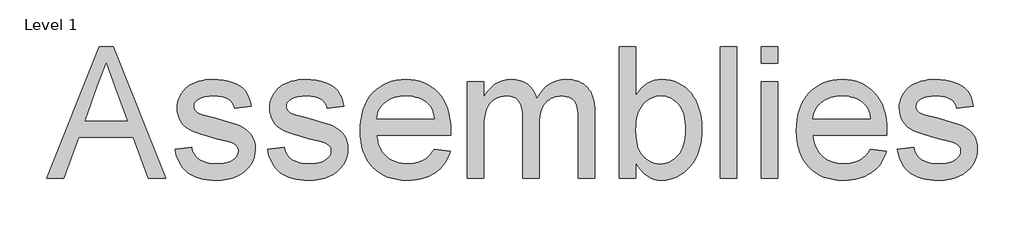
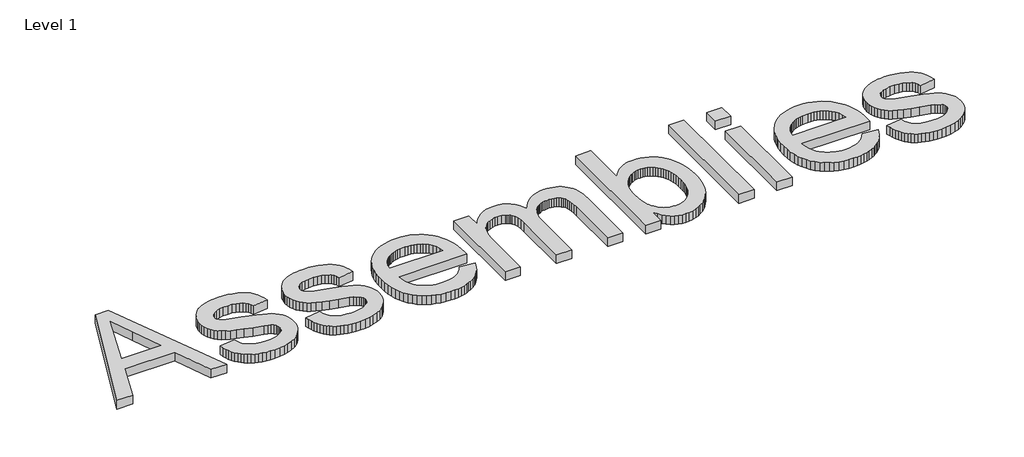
# One storey, part 32 of 32: 1 proxy.
"""IFC4 building model written with IfcOpenShell, lengths in millimetres."""

import ifcopenshell
import ifcopenshell.guid

model = None  # the IFC model being written
_history = None  # IfcOwnerHistory: only IFC2X3 demands one
_inside = {}  # id of a spatial element -> (the spatial element, [elements in it])
_under = {}  # id of a project, library or spatial element -> (it, [spatial elements below it])
_declared = {}  # id of a project -> (the project, [libraries it declares])
_typed = {}  # id of a type object -> (the type object, [elements of that type])
_made_of = {}  # id of a material, layer set ... -> (it, [elements and type objects made of it])


def new_model(schema):
    """Start an empty IFC model of exactly this schema.

    Asked for "IFC4X3", IfcOpenShell would pick the latest addendum, in which some entities
    have other attributes; the version numbers below select the first issue.
    IFC2X3 requires an IfcOwnerHistory on every rooted entity: one is made here for all.
    """
    global model, _history
    if schema == "IFC4X3":
        model = ifcopenshell.file(schema_version=(4, 3, 0, 0))
    else:
        model = ifcopenshell.file(schema=schema)
    _inside.clear()
    _under.clear()
    _declared.clear()
    _typed.clear()
    _made_of.clear()
    _history = None
    if model.schema == "IFC2X3":
        org = make("IfcOrganization", Name="unknown")
        user = make(
            "IfcPersonAndOrganization",
            ThePerson=make("IfcPerson", FamilyName="unknown"),
            TheOrganization=org,
        )
        app = make(
            "IfcApplication",
            ApplicationDeveloper=org,
            Version="unknown",
            ApplicationFullName="unknown",
            ApplicationIdentifier="unknown",
        )
        _history = make(
            "IfcOwnerHistory",
            OwningUser=user,
            OwningApplication=app,
            ChangeAction="ADDED",
            CreationDate=0,
        )
    return model


def make(cls, **values):
    """One entity of the class cls with the attributes given. An attribute that is None is left unset."""
    return model.create_entity(
        cls, **{name: value for name, value in values.items() if value is not None}
    )


def rooted(cls, **values):
    """An entity with a GlobalId (a new one), such as an element, a storey or a relation."""
    return make(cls, GlobalId=ifcopenshell.guid.new(), OwnerHistory=_history, **values)


def si_unit(unit_type, name, prefix=None):
    """IfcSIUnit, for example si_unit("LENGTHUNIT", "METRE", prefix="MILLI")."""
    return make("IfcSIUnit", UnitType=unit_type, Prefix=prefix, Name=name)


def assignment(units):
    """IfcUnitAssignment: the units of a project."""
    return None if units is None else make("IfcUnitAssignment", Units=units)


def point(xyz):
    """IfcCartesianPoint."""
    return None if xyz is None else make("IfcCartesianPoint", Coordinates=xyz)


def direction(xyz):
    """IfcDirection."""
    return None if xyz is None else make("IfcDirection", DirectionRatios=xyz)


def frame(location, z_axis=None, x_axis=None):
    """IfcAxis2Placement3D, a coordinate frame: its origin and axes. An axis left out is left unset."""
    return make(
        "IfcAxis2Placement3D",
        Location=point(location),
        Axis=direction(z_axis),
        RefDirection=direction(x_axis),
    )


def origin():
    """The frame at (0, 0, 0) with its axes left unset."""
    return frame((0.0, 0.0, 0.0))


def origin_with_axes():
    """The frame at (0, 0, 0) with the z axis (0, 0, 1) and the x axis (1, 0, 0) written out."""
    return frame((0.0, 0.0, 0.0), z_axis=(0.0, 0.0, 1.0), x_axis=(1.0, 0.0, 0.0))


def place(relative_to, where):
    """IfcLocalPlacement: puts the frame where relative to a parent placement (None: the world)."""
    return make(
        "IfcLocalPlacement", PlacementRelTo=relative_to, RelativePlacement=where
    )


def context(
    kind, dimensions, precision=None, world=None, true_north=None, identifier=None
):
    """IfcGeometricRepresentationContext, for example the 3D "Model" context."""
    return make(
        "IfcGeometricRepresentationContext",
        ContextIdentifier=identifier,
        ContextType=kind,
        CoordinateSpaceDimension=dimensions,
        Precision=precision,
        WorldCoordinateSystem=world,
        TrueNorth=true_north,
    )


def project(units=None, contexts=None):
    """IfcProject with its units and contexts."""
    return rooted(
        "IfcProject",
        Name="project",
        RepresentationContexts=contexts,
        UnitsInContext=assignment(units),
    )


def spatial(cls, under=None, at=None, **own):
    """A site, building, storey or space (cls), placed at a placement, below another one or the project."""
    s = rooted(cls, ObjectPlacement=at, **own)
    if under is not None:
        _under.setdefault(under.id(), (under, []))[1].append(s)
    return s


def polyline(points):
    """IfcPolyline through the points."""
    return make("IfcPolyline", Points=[point(p) for p in points])


def outline(outer, holes=None, kind="AREA"):
    """IfcArbitraryClosedProfileDef: a profile drawn as a closed curve; with holes, ...WithVoids."""
    if holes is None:
        return make("IfcArbitraryClosedProfileDef", ProfileType=kind, OuterCurve=outer)
    return make(
        "IfcArbitraryProfileDefWithVoids",
        ProfileType=kind,
        OuterCurve=outer,
        InnerCurves=holes,
    )


def extrude(swept, where, along, depth):
    """IfcExtrudedAreaSolid: the profile swept, set in the frame where, extruded along a direction by depth."""
    return make(
        "IfcExtrudedAreaSolid",
        SweptArea=swept,
        Position=where,
        ExtrudedDirection=direction(along),
        Depth=depth,
    )


def shape(context_of_items, identifier, shape_type, items):
    """IfcShapeRepresentation: the items that make up one representation, for example the "Body"."""
    return make(
        "IfcShapeRepresentation",
        ContextOfItems=context_of_items,
        RepresentationIdentifier=identifier,
        RepresentationType=shape_type,
        Items=items,
    )


def made_of(thing, what):
    """Note that an element or type object is made of a material, layer set ...; save() writes the relation."""
    if what is not None:
        _made_of.setdefault(what.id(), (what, []))[1].append(thing)
    return thing


def element(
    cls,
    number,
    at=None,
    inside=None,
    cuts=None,
    type_object=None,
    material=None,
    context=None,
    identifier="Body",
    shape_type=None,
    held_by="IfcProductDefinitionShape",
    body=None,
    shapes=None,
    **own,
):
    """One element of the class cls, such as IfcWall. Its Tag is "e" and its number.

    at: its placement. inside: the storey or other place that contains it. cuts: it is an
    opening in that element (IfcRelVoidsElement). A single representation is given by context,
    identifier, shape_type and body (its items); several are given by shapes. held_by: the class
    of the entity that holds the representations. save() writes the other relations.
    """
    e = rooted(cls, Tag="e%d" % number, ObjectPlacement=at, **own)
    if body is not None:
        shapes = [shape(context, identifier, shape_type, body)]
    if shapes is not None:
        e.Representation = make(held_by, Representations=shapes)
    if inside is not None:
        _inside.setdefault(inside.id(), (inside, []))[1].append(e)
    if cuts is not None:
        rooted(
            "IfcRelVoidsElement", RelatingBuildingElement=cuts, RelatedOpeningElement=e
        )
    if type_object is not None:
        _typed.setdefault(type_object.id(), (type_object, []))[1].append(e)
    return made_of(e, material)


def aggregate(whole, parts):
    """IfcRelAggregates: a whole, such as a stair, and the parts it consists of."""
    return rooted("IfcRelAggregates", RelatingObject=whole, RelatedObjects=parts)


def save(model, path):
    """Write the relations noted so far, then the file.

    IfcRelAggregates (storeys below a building ...), IfcRelContainedInSpatialStructure (elements
    in a storey), IfcRelDefinesByType, IfcRelAssociatesMaterial and IfcRelDeclares: one each for
    every whole, place, type object, material and project.
    """
    for whole, parts in _under.values():
        aggregate(whole, parts)
    for where, things in _inside.values():
        rooted(
            "IfcRelContainedInSpatialStructure",
            RelatedElements=things,
            RelatingStructure=where,
        )
    for kind, things in _typed.values():
        rooted("IfcRelDefinesByType", RelatedObjects=things, RelatingType=kind)
    for what, things in _made_of.values():
        rooted("IfcRelAssociatesMaterial", RelatedObjects=things, RelatingMaterial=what)
    for by, libraries in _declared.values():
        rooted("IfcRelDeclares", RelatingContext=by, RelatedDefinitions=libraries)
    model.write(path)


model = new_model("IFC4")

# Units and contexts
model_context = context("Model", 3, world=origin())
ifc_project = project(units=[si_unit("LENGTHUNIT", "METRE", prefix="MILLI")], contexts=[model_context])

# Site, building, storey
site = spatial("IfcSite", under=ifc_project)
building = spatial("IfcBuilding", under=site)
storey = spatial("IfcBuildingStorey", under=building, Name="Level 1", Elevation=0.0)

# Proxy
placement = place(None, origin())
element("IfcBuildingElementProxy", 1, Name="2000mm Arial", ObjectType="2000mm Arial", at=placement, inside=storey, context=model_context, shape_type="SweptSolid", body=[
    extrude(outline(polyline([(-24973.2344627, 35444.4687272), (-24171.2517132, 37453.5949302), (-23957.3896467, 37453.5949302), (-23155.4068972, 35444.4687272), (-23420.7724431, 35444.4687272), (-23650.8213174, 36072.3206656), (-24478.3105519, 36072.3206656), (-24707.8689169, 35444.4687272), (-24973.2344627, 35444.4687272)]), holes=[polyline([(-24386.0947984, 36323.461441), (-23742.5465615, 36323.461441), (-23923.5445032, 36817.4043332), (-24064.32068, 37202.4541548), (-24189.4005583, 36860.569154), (-24386.0947984, 36323.461441)])]), origin_with_axes(), (0.0, 0.0, 1.0), 150.0),
    extrude(outline(polyline([(-23012.6686831, 35883.9650841), (-22761.5279077, 35915.357681), (-22746.3527754, 35858.0907171), (-22721.9192796, 35807.9361384), (-22688.2274202, 35764.893945), (-22645.2771972, 35728.9641368), (-22592.9459834, 35700.6372232), (-22531.1111514, 35680.4037134), (-22459.7727012, 35668.2636076), (-22378.9306327, 35664.2169057), (-22298.1805348, 35667.9263824), (-22228.589524, 35679.0548128), (-22170.1576005, 35697.6021967), (-22122.8847641, 35723.5685342), (-22086.4031329, 35754.5319355), (-22060.3448249, 35788.0705107), (-22044.7098401, 35824.1842599), (-22039.4981785, 35862.8731831), (-22044.7404969, 35896.7796403), (-22060.4674522, 35926.8846502), (-22086.6790444, 35953.1882129), (-22123.3752734, 35975.6903282), (-22161.6043441, 35990.6508627), (-22217.4304369, 36007.5734345), (-22381.8736887, 36047.30469), (-22506.4937146, 36081.6556713), (-22611.0641717, 36113.5847628), (-22695.5850601, 36143.0919645), (-22760.0563797, 36170.1772764), (-22811.2073055, 36198.5501752), (-22855.7670121, 36231.9201379), (-22893.7354997, 36270.2871643), (-22925.1127682, 36313.6512545), (-22949.6842198, 36360.709493), (-22967.2352567, 36410.1589645), (-22977.7658788, 36461.999669), (-22981.2760862, 36516.2316065), (-22978.4556575, 36565.8190338), (-22969.9943717, 36613.5363942), (-22955.8922285, 36659.3836879), (-22936.1492281, 36703.3609147), (-22911.5317913, 36744.5790266), (-22882.8063388, 36782.1489753), (-22849.9728707, 36816.070761), (-22813.031387, 36846.3443835), (-22780.9796682, 36867.3596425), (-22743.685631, 36886.7500893), (-22701.1492753, 36904.515724), (-22653.3706011, 36920.6565465), (-22602.0663912, 36934.0689109), (-22548.9534282, 36943.6491712), (-22494.031712, 36949.3973274), (-22437.3012426, 36951.3133795), (-22352.9029816, 36948.2323677), (-22273.8390094, 36938.9893326), (-22200.1093262, 36923.5842741), (-22131.713932, 36902.0171921), (-22070.2776388, 36875.1924633), (-22017.4252588, 36844.0144642), (-21973.1567921, 36808.4831948), (-21937.4722385, 36768.5986552), (-21908.5321882, 36722.9659594), (-21884.4972312, 36670.1902215), (-21865.3673675, 36610.2714415), (-21851.142597, 36543.2096195), (-22102.2833724, 36511.8170225), (-22114.2548656, 36553.7708984), (-22133.9825376, 36590.8503378), (-22161.4663883, 36623.0553408), (-22196.7064178, 36650.3859074), (-22239.8559101, 36672.1675872), (-22291.0681496, 36687.7259299), (-22350.343136, 36697.0609355), (-22417.6808696, 36700.1726041), (-22495.7944799, 36697.1988913), (-22561.8906117, 36688.2777529), (-22615.969265, 36673.4091889), (-22658.0304397, 36652.5931994), (-22689.5763208, 36627.8224784), (-22712.109093, 36601.08972), (-22725.6287564, 36572.3949244), (-22730.1353108, 36541.7380915), (-22728.265244, 36521.9031206), (-22722.6550436, 36503.110482), (-22713.3047095, 36485.3601757), (-22700.2142419, 36468.6522018), (-22683.1383859, 36452.4960508), (-22661.831887, 36437.8727415), (-22606.5269604, 36413.2246478), (-22390.2123473, 36359.7591312), (-22168.3181905, 36294.1535087), (-22085.56007, 36266.2251339), (-22021.5945881, 36241.5463834), (-21969.9684814, 36215.8866143), (-21924.2284867, 36185.0151835), (-21884.3746039, 36148.9320911), (-21850.406833, 36107.6373372), (-21823.2602074, 36061.069608), (-21803.8697606, 36009.1675898), (-21792.2354925, 35951.9312827), (-21788.3574031, 35889.3606867), (-21792.9099428, 35826.5141792), (-21806.5675619, 35765.5070817), (-21829.3302604, 35706.3393941), (-21861.1980382, 35649.0111165), (-21901.6497292, 35595.806183), (-21950.1641674, 35549.0085275), (-22006.7413525, 35508.6181501), (-22071.3812848, 35474.6350508), (-22142.3211962, 35447.7030231), (-22217.7983188, 35428.4658604), (-22297.8126528, 35416.9235628), (-22382.364198, 35413.0761303), (-22452.0855003, 35414.9308687), (-22517.5301744, 35420.4950839), (-22578.6982203, 35429.7687758), (-22635.589638, 35442.7519446), (-22688.2044276, 35459.4445901), (-22736.5425889, 35479.8467124), (-22780.604122, 35503.9583115), (-22820.3890269, 35531.7793874), (-22856.3341636, 35563.2486264), (-22888.8763917, 35598.3047149), (-22918.0157114, 35636.9476528), (-22943.7521227, 35679.1774401), (-22966.0856255, 35724.9940769), (-22985.0162198, 35774.3975632), (-23000.5439057, 35827.3878989), (-23012.6686831, 35883.9650841)])), origin_with_axes(), (0.0, 0.0, 1.0), 150.0),
    extrude(outline(polyline([(-21600.0018216, 35883.9650841), (-21348.8610462, 35915.357681), (-21333.6859139, 35858.0907171), (-21309.2524181, 35807.9361384), (-21275.5605587, 35764.893945), (-21232.6103358, 35728.9641368), (-21180.279122, 35700.6372232), (-21118.4442899, 35680.4037134), (-21047.1058397, 35668.2636076), (-20966.2637713, 35664.2169057), (-20885.5136733, 35667.9263824), (-20815.9226626, 35679.0548128), (-20757.490739, 35697.6021967), (-20710.2179026, 35723.5685342), (-20673.7362714, 35754.5319355), (-20647.6779634, 35788.0705107), (-20632.0429786, 35824.1842599), (-20626.831317, 35862.8731831), (-20632.0736355, 35896.7796403), (-20647.8005908, 35926.8846502), (-20674.0121829, 35953.1882129), (-20710.7084119, 35975.6903282), (-20748.9374826, 35990.6508627), (-20804.7635754, 36007.5734345), (-20969.2068272, 36047.30469), (-21093.8268531, 36081.6556713), (-21198.3973102, 36113.5847628), (-21282.9181986, 36143.0919645), (-21347.3895183, 36170.1772764), (-21398.540444, 36198.5501752), (-21443.1001507, 36231.9201379), (-21481.0686383, 36270.2871643), (-21512.4459068, 36313.6512545), (-21537.0173584, 36360.709493), (-21554.5683952, 36410.1589645), (-21565.0990173, 36461.999669), (-21568.6092247, 36516.2316065), (-21565.7887961, 36565.8190338), (-21557.3275102, 36613.5363942), (-21543.225367, 36659.3836879), (-21523.4823666, 36703.3609147), (-21498.8649298, 36744.5790266), (-21470.1394773, 36782.1489753), (-21437.3060092, 36816.070761), (-21400.3645256, 36846.3443835), (-21368.3128067, 36867.3596425), (-21331.0187695, 36886.7500893), (-21288.4824138, 36904.515724), (-21240.7037397, 36920.6565465), (-21189.3995297, 36934.0689109), (-21136.2865667, 36943.6491712), (-21081.3648505, 36949.3973274), (-21024.6343812, 36951.3133795), (-20940.2361201, 36948.2323677), (-20861.172148, 36938.9893326), (-20787.4424648, 36923.5842741), (-20719.0470705, 36902.0171921), (-20657.6107773, 36875.1924633), (-20604.7583973, 36844.0144642), (-20560.4899306, 36808.4831948), (-20524.805377, 36768.5986552), (-20495.8653268, 36722.9659594), (-20471.8303697, 36670.1902215), (-20452.700506, 36610.2714415), (-20438.4757355, 36543.2096195), (-20689.6165109, 36511.8170225), (-20701.5880041, 36553.7708984), (-20721.3156761, 36590.8503378), (-20748.7995269, 36623.0553408), (-20784.0395563, 36650.3859074), (-20827.1890487, 36672.1675872), (-20878.4012881, 36687.7259299), (-20937.6762745, 36697.0609355), (-21005.0140081, 36700.1726041), (-21083.1276184, 36697.1988913), (-21149.2237502, 36688.2777529), (-21203.3024035, 36673.4091889), (-21245.3635783, 36652.5931994), (-21276.9094593, 36627.8224784), (-21299.4422316, 36601.08972), (-21312.9618949, 36572.3949244), (-21317.4684493, 36541.7380915), (-21315.5983825, 36521.9031206), (-21309.9881821, 36503.110482), (-21300.637848, 36485.3601757), (-21287.5473804, 36468.6522018), (-21270.4715244, 36452.4960508), (-21249.1650255, 36437.8727415), (-21193.8600989, 36413.2246478), (-20977.5454858, 36359.7591312), (-20755.651329, 36294.1535087), (-20672.8932085, 36266.2251339), (-20608.9277266, 36241.5463834), (-20557.30162, 36215.8866143), (-20511.5616252, 36185.0151835), (-20471.7077424, 36148.9320911), (-20437.7399715, 36107.6373372), (-20410.593346, 36061.069608), (-20391.2028991, 36009.1675898), (-20379.568631, 35951.9312827), (-20375.6905417, 35889.3606867), (-20380.2430814, 35826.5141792), (-20393.9007004, 35765.5070817), (-20416.6633989, 35706.3393941), (-20448.5311767, 35649.0111165), (-20488.9828678, 35595.806183), (-20537.4973059, 35549.0085275), (-20594.0744911, 35508.6181501), (-20658.7144233, 35474.6350508), (-20729.6543347, 35447.7030231), (-20805.1314574, 35428.4658604), (-20885.1457913, 35416.9235628), (-20969.6973365, 35413.0761303), (-21039.4186388, 35414.9308687), (-21104.8633129, 35420.4950839), (-21166.0313588, 35429.7687758), (-21222.9227766, 35442.7519446), (-21275.5375661, 35459.4445901), (-21323.8757274, 35479.8467124), (-21367.9372605, 35503.9583115), (-21407.7221655, 35531.7793874), (-21443.6673021, 35563.2486264), (-21476.2095302, 35598.3047149), (-21505.3488499, 35636.9476528), (-21531.0852612, 35679.1774401), (-21553.418764, 35724.9940769), (-21572.3493583, 35774.3975632), (-21587.8770442, 35827.3878989), (-21600.0018216, 35883.9650841)])), origin_with_axes(), (0.0, 0.0, 1.0), 150.0),
    extrude(outline(polyline([(-19060.1445269, 35883.9650841), (-18813.9088448, 35852.5724872), (-18831.1341528, 35801.7971076), (-18851.6627346, 35753.9494556), (-18875.4945901, 35709.0295312), (-18902.6297193, 35667.0373343), (-18933.0681223, 35627.9728649), (-18966.8097991, 35591.8361231), (-19003.8547495, 35558.6271088), (-19044.2029738, 35528.3458221), (-19087.6552024, 35501.3294881), (-19134.0121659, 35477.9153319), (-19183.2738643, 35458.1033537), (-19235.4402976, 35441.8935532), (-19290.5114659, 35429.2859307), (-19348.487369, 35420.280486), (-19409.3680071, 35414.8772192), (-19473.1533802, 35413.0761303), (-19553.1907067, 35416.1839667), (-19628.982062, 35425.507476), (-19700.5274458, 35441.0466582), (-19767.8268583, 35462.8015133), (-19830.8802994, 35490.7720412), (-19889.6877692, 35524.9582421), (-19944.2492676, 35565.3601158), (-19994.5647947, 35611.9776623), (-20039.7453022, 35664.2054093), (-20078.9017421, 35721.4378843), (-20112.0341142, 35783.6750873), (-20139.1424188, 35850.9170182), (-20160.2266556, 35923.1636771), (-20175.2868248, 36000.415064), (-20184.3229263, 36082.6711789), (-20187.3349601, 36169.9320217), (-20184.2922695, 36260.1627452), (-20175.1641975, 36345.1971356), (-20159.9507441, 36425.0351927), (-20138.6519094, 36499.6769167), (-20111.2676934, 36569.1223075), (-20077.7980961, 36633.3713651), (-20038.2431174, 36692.4240896), (-19992.6027574, 36746.2804808), (-19942.1109535, 36794.3350664), (-19888.0016434, 36835.982374), (-19830.274827, 36871.2224034), (-19768.9305043, 36900.0551548), (-19703.9686753, 36922.4806281), (-19635.38934, 36938.4988233), (-19563.1924985, 36948.1097404), (-19487.3781506, 36951.3133795), (-19414.0431742, 36948.1174046), (-19344.1340988, 36938.5294801), (-19277.6509245, 36922.549606), (-19214.5936512, 36900.1777821), (-19154.9622791, 36871.4140086), (-19098.756808, 36836.2582855), (-19045.977238, 36794.7106126), (-18996.6235691, 36746.7709901), (-18951.9603956, 36693.0372262), (-18913.2523119, 36634.1071291), (-18880.499318, 36569.9806988), (-18853.701414, 36500.6579354), (-18832.8585997, 36426.1388387), (-18817.9708752, 36346.4234089), (-18809.0382405, 36261.5116459), (-18806.0606956, 36171.4035497), (-18807.5322236, 36103.7132626), (-19936.1941848, 36103.7132626), (-19930.718108, 36052.0488349), (-19921.6475175, 36003.4960757), (-19908.9824134, 35958.0549851), (-19892.7227957, 35915.725563), (-19872.8686642, 35876.5078095), (-19849.4200191, 35840.4017245), (-19822.3768604, 35807.4073081), (-19791.739188, 35777.5245602), (-19758.3040796, 35750.9680786), (-19722.8686128, 35727.9524613), (-19685.4327877, 35708.4777082), (-19645.9966042, 35692.5438193), (-19604.5600624, 35680.1507946), (-19561.1231623, 35671.2986341), (-19515.6859038, 35665.9873378), (-19468.2482869, 35664.2169057), (-19398.7799035, 35667.4971868), (-19334.5844953, 35677.3380302), (-19275.6620624, 35693.7394358), (-19222.0126048, 35716.7014036), (-19173.6361224, 35746.8370704), (-19130.5326153, 35784.7595727), (-19092.7020835, 35830.4689106), (-19060.1445269, 35883.9650841)]), holes=[polyline([(-19936.1941848, 36354.8540379), (-19057.201471, 36354.8540379), (-19070.1079976, 36425.9165767), (-19091.1692418, 36487.5368109), (-19120.3852036, 36539.7147405), (-19157.755883, 36582.4503656), (-19190.8192773, 36610.0415153), (-19226.2432477, 36633.9538449), (-19264.0277943, 36654.1873547), (-19304.172917, 36670.7420445), (-19346.6786159, 36683.6179143), (-19391.5448909, 36692.8149642), (-19438.771742, 36698.3331941), (-19488.3591693, 36700.1726041), (-19576.6661766, 36694.3018206), (-19618.0720615, 36686.9633412), (-19657.6462007, 36676.6894701), (-19695.3885942, 36663.4802072), (-19731.2992419, 36647.3355525), (-19765.3781438, 36628.2555061), (-19797.6252999, 36606.240068), (-19827.2053116, 36581.764419), (-19853.2827801, 36555.3037401), (-19875.8577054, 36526.8580312), (-19894.9300876, 36496.4272924), (-19910.4999267, 36464.0115237), (-19922.5672225, 36429.610725), (-19931.1319752, 36393.2248965), (-19936.1941848, 36354.8540379)])]), origin_with_axes(), (0.0, 0.0, 1.0), 150.0),
    extrude(outline(polyline([(-18554.9199202, 35444.4687272), (-18554.9199202, 36919.9207825), (-18303.7791448, 36919.9207825), (-18303.7791448, 36677.1186657), (-18268.707728, 36735.9031429), (-18228.2407085, 36788.6482239), (-18182.3780864, 36835.3539089), (-18131.1198618, 36876.0201978), (-18075.293769, 36908.9609648), (-18015.7275426, 36932.490084), (-17952.4211826, 36946.6075556), (-17885.374689, 36951.3133795), (-17812.0742014, 36946.5155851), (-17745.7021581, 36932.122202), (-17686.2585591, 36908.1332303), (-17633.7434043, 36874.5486698), (-17588.3099779, 36832.3188824), (-17550.111564, 36782.39423), (-17519.1481628, 36724.7747125), (-17495.4197741, 36659.4603299), (-17451.2586063, 36727.8633884), (-17403.878471, 36787.1460391), (-17353.2793682, 36837.308282), (-17299.461298, 36878.3501171), (-17242.4242603, 36910.2715444), (-17182.1682552, 36933.0725639), (-17118.6932826, 36946.7531756), (-17051.9993426, 36951.3133795), (-17000.193127, 36949.4164879), (-16951.460259, 36943.7258133), (-16905.8007384, 36934.2413556), (-16863.2145654, 36920.9631148), (-16823.7017398, 36903.891091), (-16787.2622618, 36883.0252841), (-16753.8961313, 36858.3656941), (-16723.6033482, 36829.912321), (-16696.6444958, 36797.5118807), (-16673.280157, 36761.011089), (-16653.5103318, 36720.4099459), (-16637.3350203, 36675.7084514), (-16624.7542225, 36626.9066055), (-16615.7679384, 36574.0044081), (-16610.3761679, 36517.0018594), (-16608.5789111, 36455.8989593), (-16608.5789111, 35444.4687272), (-16859.7196864, 35444.4687272), (-16859.7196864, 36347.9869074), (-16861.175886, 36415.7231797), (-16865.5444847, 36473.2507267), (-16872.8254825, 36520.5695483), (-16883.0188795, 36557.6796446), (-16897.0290521, 36588.1372081), (-16915.760377, 36615.4984315), (-16939.2128542, 36639.7633148), (-16967.3864837, 36660.9318579), (-16999.2542615, 36678.0996844), (-17033.7891838, 36690.3624175), (-17070.9912506, 36697.7200574), (-17110.8604618, 36700.1726041), (-17147.230962, 36698.6014414), (-17182.0302995, 36693.8879533), (-17215.2584742, 36686.0321399), (-17246.9154864, 36675.0340011), (-17277.0013358, 36660.8935369), (-17305.5160225, 36643.6107473), (-17332.4595465, 36623.1856324), (-17357.8319079, 36599.6181921), (-17380.8820142, 36572.5865296), (-17400.8587729, 36541.7687483), (-17417.7621842, 36507.1648481), (-17431.5922479, 36468.7748291), (-17442.3489642, 36426.5986912), (-17450.0323329, 36380.6364344), (-17454.6423542, 36330.8880588), (-17456.1790279, 36277.3535643), (-17456.1790279, 35444.4687272), (-17707.3198033, 35444.4687272), (-17707.3198033, 36375.945939), (-17710.952638, 36452.0361983), (-17721.8511421, 36517.9483891), (-17740.0153156, 36573.6825114), (-17765.4451586, 36619.2385651), (-17781.1376249, 36638.2074805), (-17799.1523464, 36654.6472072), (-17819.4893229, 36668.5577451), (-17842.1485545, 36679.9390943), (-17894.4337831, 36695.1142266), (-17956.0080321, 36700.1726041), (-18005.3348762, 36696.8003525), (-18052.7609968, 36686.6835976), (-18098.2863937, 36669.8223395), (-18141.911067, 36646.2165781), (-18181.6423224, 36616.1115682), (-18215.487466, 36579.7525643), (-18243.4464976, 36537.1395665), (-18265.5194173, 36488.2725749), (-18282.2580481, 36430.5457584), (-18294.214213, 36361.3532865), (-18301.3879119, 36280.6951591), (-18303.7791448, 36188.5713761), (-18303.7791448, 35444.4687272), (-18554.9199202, 35444.4687272)])), origin_with_axes(), (0.0, 0.0, 1.0), 150.0),
    extrude(outline(polyline([(-15980.7269726, 35444.4687272), (-16231.867748, 35444.4687272), (-16231.867748, 37453.5949302), (-15980.7269726, 37453.5949302), (-15980.7269726, 36708.5112626), (-15940.7657909, 36765.4180088), (-15898.1374647, 36814.7371887), (-15852.841994, 36856.4688026), (-15804.8793789, 36890.6128502), (-15754.2496193, 36917.1693318), (-15700.9527153, 36936.1382472), (-15644.9886668, 36947.5195964), (-15586.3574738, 36951.3133795), (-15520.7825082, 36947.8951426), (-15456.9856388, 36937.640432), (-15394.9668658, 36920.5492476), (-15334.7261891, 36896.6215895), (-15278.0110482, 36866.5012511), (-15226.5688825, 36830.832026), (-15180.3996921, 36789.6139142), (-15139.503477, 36742.8469155), (-15103.3130857, 36690.745628), (-15071.2613669, 36633.5246493), (-15043.3483205, 36571.1839795), (-15019.5739466, 36503.7236187), (-15000.5820386, 36432.4924673), (-14987.01639, 36358.8394262), (-14978.8770008, 36282.7644953), (-14976.1638711, 36204.2676746), (-14978.9728034, 36112.4044747), (-14987.3996004, 36025.9062206), (-15001.444262, 35944.7729122), (-15021.1067882, 35869.0045496), (-15046.3871791, 35798.6011328), (-15077.2854345, 35733.5626618), (-15113.8015547, 35673.8891364), (-15155.9355394, 35619.5805569), (-15202.0089272, 35571.1810819), (-15250.3432564, 35529.2348703), (-15300.9385271, 35493.7419219), (-15353.7947392, 35464.7022369), (-15408.9118927, 35442.1158153), (-15466.2899876, 35425.9826569), (-15525.929024, 35416.302762), (-15587.8290018, 35413.0761303), (-15648.6904793, 35417.2377954), (-15706.1950337, 35429.7227906), (-15760.3426649, 35450.5311159), (-15811.1333728, 35479.6627714), (-15858.5671576, 35517.117757), (-15902.6440191, 35562.8960728), (-15943.3639575, 35616.9977187), (-15980.7269726, 35679.4226948), (-15980.7269726, 35444.4687272)]), holes=[polyline([(-15980.7269726, 36192.4954507), (-15976.435016, 36079.3104236), (-15963.5591462, 35983.0479681), (-15953.9022438, 35941.2627049), (-15942.0993631, 35903.7080845), (-15928.1505041, 35870.3841071), (-15912.0556669, 35841.2907727), (-15882.8626977, 35799.7890851), (-15851.2018535, 35763.8209559), (-15817.0731342, 35733.386385), (-15780.4765399, 35708.4853724), (-15741.4120705, 35689.1179182), (-15699.8797261, 35675.2840223), (-15655.8795067, 35666.9836848), (-15609.4114122, 35664.2169057), (-15571.1976699, 35666.255585), (-15534.3021715, 35672.3716232), (-15498.7249169, 35682.5650202), (-15464.4659061, 35696.8357759), (-15431.5251391, 35715.1838904), (-15399.9026159, 35737.6093637), (-15369.5983365, 35764.1121958), (-15340.612301, 35794.6923866), (-15314.0558195, 35829.3116152), (-15291.0402022, 35867.9315605), (-15271.565449, 35910.5522225), (-15255.6315601, 35957.1736012), (-15243.2385354, 36007.7956965), (-15234.3863749, 36062.4185086), (-15229.0750786, 36121.0420374), (-15227.3046465, 36183.6662828), (-15229.0022686, 36247.6011079), (-15234.095135, 36307.2133196), (-15242.5832456, 36362.5029178), (-15254.4666005, 36413.4699025), (-15269.7451996, 36460.1142738), (-15288.4190429, 36502.4360317), (-15310.4881306, 36540.4351761), (-15335.9524624, 36574.1117071), (-15363.8233556, 36603.6572298), (-15393.1121274, 36629.2633495), (-15423.8187777, 36650.9300662), (-15455.9433065, 36668.6573798), (-15489.4857138, 36682.4452904), (-15524.4459997, 36692.293798), (-15560.8241641, 36698.2029026), (-15598.620207, 36700.1726041), (-15636.8339492, 36698.1339247), (-15673.7294476, 36692.0178865), (-15709.3067023, 36681.8244896), (-15743.5657131, 36667.5537338), (-15776.50648, 36649.2056193), (-15808.1290032, 36626.780146), (-15838.4332826, 36600.277314), (-15867.4193181, 36569.6971231), (-15893.9757996, 36535.2618355), (-15916.991417, 36497.1937132), (-15936.4661701, 36455.4927562), (-15952.400059, 36410.1589645), (-15964.7930837, 36361.1923381), (-15973.6452442, 36308.592877), (-15978.9565405, 36252.3605812), (-15980.7269726, 36192.4954507)])]), origin_with_axes(), (0.0, 0.0, 1.0), 150.0),
    extrude(outline(polyline([(-14693.6304988, 35444.4687272), (-14693.6304988, 37453.5949302), (-14442.4897235, 37453.5949302), (-14442.4897235, 35444.4687272), (-14693.6304988, 35444.4687272)])), origin_with_axes(), (0.0, 0.0, 1.0), 150.0),
    extrude(outline(polyline([(-14065.7785604, 37202.4541548), (-14065.7785604, 37453.5949302), (-13814.637785, 37453.5949302), (-13814.637785, 37202.4541548), (-14065.7785604, 37202.4541548)])), origin_with_axes(), (0.0, 0.0, 1.0), 150.0),
    extrude(outline(polyline([(-14065.7785604, 35444.4687272), (-14065.7785604, 36919.9207825), (-13814.637785, 36919.9207825), (-13814.637785, 35444.4687272), (-14065.7785604, 35444.4687272)])), origin_with_axes(), (0.0, 0.0, 1.0), 150.0),
    extrude(outline(polyline([(-12404.9139795, 35883.9650841), (-12158.6782974, 35852.5724872), (-12175.9036054, 35801.7971076), (-12196.4321872, 35753.9494556), (-12220.2640427, 35709.0295312), (-12247.3991719, 35667.0373343), (-12277.8375749, 35627.9728649), (-12311.5792516, 35591.8361231), (-12348.6242021, 35558.6271088), (-12388.9724264, 35528.3458221), (-12432.424655, 35501.3294881), (-12478.7816184, 35477.9153319), (-12528.0433169, 35458.1033537), (-12580.2097502, 35441.8935532), (-12635.2809185, 35429.2859307), (-12693.2568216, 35420.280486), (-12754.1374597, 35414.8772192), (-12817.9228328, 35413.0761303), (-12897.9601593, 35416.1839667), (-12973.7515145, 35425.507476), (-13045.2968984, 35441.0466582), (-13112.5963109, 35462.8015133), (-13175.649752, 35490.7720412), (-13234.4572218, 35524.9582421), (-13289.0187202, 35565.3601158), (-13339.3342473, 35611.9776623), (-13384.5147548, 35664.2054093), (-13423.6711946, 35721.4378843), (-13456.8035668, 35783.6750873), (-13483.9118714, 35850.9170182), (-13504.9961082, 35923.1636771), (-13520.0562774, 36000.415064), (-13529.0923789, 36082.6711789), (-13532.1044127, 36169.9320217), (-13529.0617221, 36260.1627452), (-13519.93365, 36345.1971356), (-13504.7201967, 36425.0351927), (-13483.421362, 36499.6769167), (-13456.037146, 36569.1223075), (-13422.5675487, 36633.3713651), (-13383.01257, 36692.4240896), (-13337.3722099, 36746.2804808), (-13286.8804061, 36794.3350664), (-13232.771096, 36835.982374), (-13175.0442796, 36871.2224034), (-13113.6999569, 36900.0551548), (-13048.7381279, 36922.4806281), (-12980.1587926, 36938.4988233), (-12907.9619511, 36948.1097404), (-12832.1476032, 36951.3133795), (-12758.8126268, 36948.1174046), (-12688.9035514, 36938.5294801), (-12622.420377, 36922.549606), (-12559.3631038, 36900.1777821), (-12499.7317317, 36871.4140086), (-12443.5262606, 36836.2582855), (-12390.7466906, 36794.7106126), (-12341.3930217, 36746.7709901), (-12296.7298482, 36693.0372262), (-12258.0217645, 36634.1071291), (-12225.2687706, 36569.9806988), (-12198.4708665, 36500.6579354), (-12177.6280523, 36426.1388387), (-12162.7403278, 36346.4234089), (-12153.8076931, 36261.5116459), (-12150.8301482, 36171.4035497), (-12152.3016761, 36103.7132626), (-13280.9636373, 36103.7132626), (-13275.4875606, 36052.0488349), (-13266.4169701, 36003.4960757), (-13253.751866, 35958.0549851), (-13237.4922483, 35915.725563), (-13217.6381168, 35876.5078095), (-13194.1894717, 35840.4017245), (-13167.146313, 35807.4073081), (-13136.5086406, 35777.5245602), (-13103.0735322, 35750.9680786), (-13067.6380654, 35727.9524613), (-13030.2022403, 35708.4777082), (-12990.7660568, 35692.5438193), (-12949.329515, 35680.1507946), (-12905.8926149, 35671.2986341), (-12860.4553563, 35665.9873378), (-12813.0177395, 35664.2169057), (-12743.5493561, 35667.4971868), (-12679.3539479, 35677.3380302), (-12620.431515, 35693.7394358), (-12566.7820574, 35716.7014036), (-12518.405575, 35746.8370704), (-12475.3020679, 35784.7595727), (-12437.4715361, 35830.4689106), (-12404.9139795, 35883.9650841)]), holes=[polyline([(-13280.9636373, 36354.8540379), (-12401.9709235, 36354.8540379), (-12414.8774502, 36425.9165767), (-12435.9386944, 36487.5368109), (-12465.1546562, 36539.7147405), (-12502.5253356, 36582.4503656), (-12535.5887299, 36610.0415153), (-12571.0127003, 36633.9538449), (-12608.7972469, 36654.1873547), (-12648.9423696, 36670.7420445), (-12691.4480685, 36683.6179143), (-12736.3143435, 36692.8149642), (-12783.5411946, 36698.3331941), (-12833.1286219, 36700.1726041), (-12921.4356291, 36694.3018206), (-12962.8415141, 36686.9633412), (-13002.4156533, 36676.6894701), (-13040.1580468, 36663.4802072), (-13076.0686945, 36647.3355525), (-13110.1475964, 36628.2555061), (-13142.3947525, 36606.240068), (-13171.9747642, 36581.764419), (-13198.0522327, 36555.3037401), (-13220.627158, 36526.8580312), (-13239.6995402, 36496.4272924), (-13255.2693792, 36464.0115237), (-13267.3366751, 36429.610725), (-13275.9014278, 36393.2248965), (-13280.9636373, 36354.8540379)])]), origin_with_axes(), (0.0, 0.0, 1.0), 150.0),
    extrude(outline(polyline([(-11993.8671636, 35883.9650841), (-11742.7263882, 35915.357681), (-11727.5512559, 35858.0907171), (-11703.11776, 35807.9361384), (-11669.4259006, 35764.893945), (-11626.4756777, 35728.9641368), (-11574.1444639, 35700.6372232), (-11512.3096319, 35680.4037134), (-11440.9711816, 35668.2636076), (-11360.1291132, 35664.2169057), (-11279.3790153, 35667.9263824), (-11209.7880045, 35679.0548128), (-11151.3560809, 35697.6021967), (-11104.0832446, 35723.5685342), (-11067.6016134, 35754.5319355), (-11041.5433054, 35788.0705107), (-11025.9083206, 35824.1842599), (-11020.696659, 35862.8731831), (-11025.9389774, 35896.7796403), (-11041.6659327, 35926.8846502), (-11067.8775249, 35953.1882129), (-11104.5737539, 35975.6903282), (-11142.8028245, 35990.6508627), (-11198.6289173, 36007.5734345), (-11363.0721692, 36047.30469), (-11487.692195, 36081.6556713), (-11592.2626522, 36113.5847628), (-11676.7835405, 36143.0919645), (-11741.2548602, 36170.1772764), (-11792.4057859, 36198.5501752), (-11836.9654926, 36231.9201379), (-11874.9339802, 36270.2871643), (-11906.3112487, 36313.6512545), (-11930.8827003, 36360.709493), (-11948.4337372, 36410.1589645), (-11958.9643593, 36461.999669), (-11962.4745666, 36516.2316065), (-11959.654138, 36565.8190338), (-11951.1928521, 36613.5363942), (-11937.090709, 36659.3836879), (-11917.3477086, 36703.3609147), (-11892.7302717, 36744.5790266), (-11864.0048193, 36782.1489753), (-11831.1713512, 36816.070761), (-11794.2298675, 36846.3443835), (-11762.1781487, 36867.3596425), (-11724.8841114, 36886.7500893), (-11682.3477557, 36904.515724), (-11634.5690816, 36920.6565465), (-11583.2648717, 36934.0689109), (-11530.1519086, 36943.6491712), (-11475.2301924, 36949.3973274), (-11418.4997231, 36951.3133795), (-11334.101462, 36948.2323677), (-11255.0374899, 36938.9893326), (-11181.3078067, 36923.5842741), (-11112.9124124, 36902.0171921), (-11051.4761192, 36875.1924633), (-10998.6237393, 36844.0144642), (-10954.3552725, 36808.4831948), (-10918.670719, 36768.5986552), (-10889.7306687, 36722.9659594), (-10865.6957117, 36670.1902215), (-10846.5658479, 36610.2714415), (-10832.3410775, 36543.2096195), (-11083.4818528, 36511.8170225), (-11095.4533461, 36553.7708984), (-11115.1810181, 36590.8503378), (-11142.6648688, 36623.0553408), (-11177.9048983, 36650.3859074), (-11221.0543906, 36672.1675872), (-11272.26663, 36687.7259299), (-11331.5416165, 36697.0609355), (-11398.87935, 36700.1726041), (-11476.9929603, 36697.1988913), (-11543.0890921, 36688.2777529), (-11597.1677454, 36673.4091889), (-11639.2289202, 36652.5931994), (-11670.7748013, 36627.8224784), (-11693.3075735, 36601.08972), (-11706.8272368, 36572.3949244), (-11711.3337913, 36541.7380915), (-11709.4637245, 36521.9031206), (-11703.853524, 36503.110482), (-11694.50319, 36485.3601757), (-11681.4127223, 36468.6522018), (-11664.3368664, 36452.4960508), (-11643.0303675, 36437.8727415), (-11587.7254409, 36413.2246478), (-11371.4108277, 36359.7591312), (-11149.516671, 36294.1535087), (-11066.7585505, 36266.2251339), (-11002.7930686, 36241.5463834), (-10951.1669619, 36215.8866143), (-10905.4269672, 36185.0151835), (-10865.5730844, 36148.9320911), (-10831.6053135, 36107.6373372), (-10804.4586879, 36061.069608), (-10785.0682411, 36009.1675898), (-10773.433973, 35951.9312827), (-10769.5558836, 35889.3606867), (-10774.1084233, 35826.5141792), (-10787.7660424, 35765.5070817), (-10810.5287408, 35706.3393941), (-10842.3965187, 35649.0111165), (-10882.8482097, 35595.806183), (-10931.3626478, 35549.0085275), (-10987.939833, 35508.6181501), (-11052.5797652, 35474.6350508), (-11123.5196766, 35447.7030231), (-11198.9967993, 35428.4658604), (-11279.0111333, 35416.9235628), (-11363.5626785, 35413.0761303), (-11433.2839808, 35414.9308687), (-11498.7286549, 35420.4950839), (-11559.8967008, 35429.7687758), (-11616.7881185, 35442.7519446), (-11669.402908, 35459.4445901), (-11717.7410693, 35479.8467124), (-11761.8026025, 35503.9583115), (-11801.5875074, 35531.7793874), (-11837.532644, 35563.2486264), (-11870.0748722, 35598.3047149), (-11899.2141919, 35636.9476528), (-11924.9506031, 35679.1774401), (-11947.2841059, 35724.9940769), (-11966.2147003, 35774.3975632), (-11981.7423861, 35827.3878989), (-11993.8671636, 35883.9650841)])), origin_with_axes(), (0.0, 0.0, 1.0), 150.0),
])

save(model, "model.ifc")
